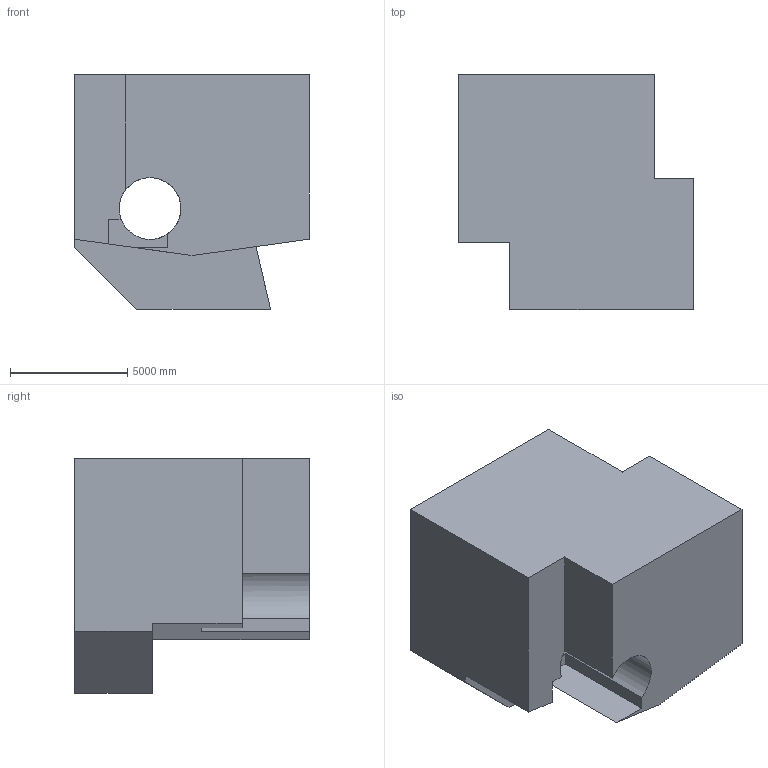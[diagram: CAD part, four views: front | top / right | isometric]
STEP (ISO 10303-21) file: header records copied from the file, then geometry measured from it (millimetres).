
FILE_DESCRIPTION (( 'STEP AP203' ), '1' );
FILE_NAME ('309.STEP', '2022-09-07T12:46:25', ( 'user' ), ( '' ), 'SwSTEP 2.0', 'SolidWorks 2021', '' );
FILE_SCHEMA (( 'CONFIG_CONTROL_DESIGN' ));
Length unit declared in the file: centimetre
Products named in the file (1): 309
Bounding box: 10000 x 10000 x 10000 mm (x, y, z)
Volume: 615759030640.4 mm3; surface area: 571510352.3 mm2
Topology: 1 solids, 1 shells, 22 faces, 63 edges, 42 vertices
Faces by surface type: plane 20, cylinder 2
Entity records: 795 total; most frequent: CARTESIAN_POINT 128, ORIENTED_EDGE 126, DIRECTION 116, EDGE_CURVE 63, VECTOR 56, LINE 56, VERTEX_POINT 42, AXIS2_PLACEMENT_3D 30
